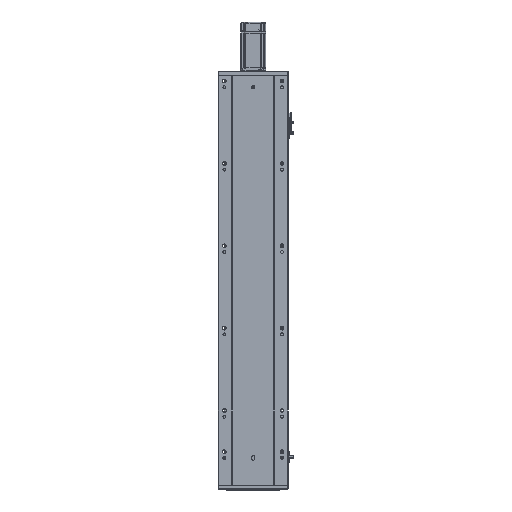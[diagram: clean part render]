
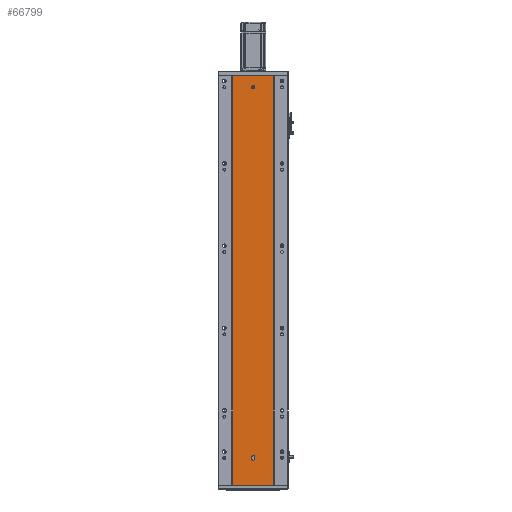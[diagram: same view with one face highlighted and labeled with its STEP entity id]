
A CAD part, front view. The second image highlights one B-rep face of the part: STEP entity #66799.
In plain terms, the highlighted planar face has unit normal (0, -1, 0).
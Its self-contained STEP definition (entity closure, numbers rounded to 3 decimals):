
#11 = ORIENTED_EDGE ( 'NONE', *, *, #30475, .T. ) ;
#1483 = CARTESIAN_POINT ( 'NONE',  ( 136.47, 79.476, 966. ) ) ;
#1876 = CARTESIAN_POINT ( 'NONE',  ( 136.47, 79.476, 64.5 ) ) ;
#2490 = LINE ( 'NONE', #62457, #19823 ) ;
#2731 = CARTESIAN_POINT ( 'NONE',  ( 136.47, 79.476, 970. ) ) ;
#3228 = CARTESIAN_POINT ( 'NONE',  ( 136.47, 79.476, 64.5 ) ) ;
#3347 = CIRCLE ( 'NONE', #58147, 4. ) ;
#3562 = DIRECTION ( 'NONE',  ( 0., -1., 0. ) ) ;
#4379 = ORIENTED_EDGE ( 'NONE', *, *, #8383, .F. ) ;
#5374 = CARTESIAN_POINT ( 'NONE',  ( 132.47, 79.476, 67.5 ) ) ;
#5585 = CARTESIAN_POINT ( 'NONE',  ( 86.97, 79.476, 0. ) ) ;
#5701 = CIRCLE ( 'NONE', #56076, 4. ) ;
#6170 = CARTESIAN_POINT ( 'NONE',  ( 0., 79.476, 994. ) ) ;
#8383 = EDGE_CURVE ( 'NONE', #24876, #37624, #64462, .T. ) ;
#8854 = EDGE_CURVE ( 'NONE', #59438, #39805, #5701, .T. ) ;
#9301 = ORIENTED_EDGE ( 'NONE', *, *, #33497, .F. ) ;
#10120 = CARTESIAN_POINT ( 'NONE',  ( 185.97, 79.476, 662.667 ) ) ;
#10433 = CARTESIAN_POINT ( 'NONE',  ( 132.47, 79.476, 67.5 ) ) ;
#10487 = DIRECTION ( 'NONE',  ( 1., 0., 0. ) ) ;
#10952 = CARTESIAN_POINT ( 'NONE',  ( 0., 79.476, 0. ) ) ;
#11131 = CARTESIAN_POINT ( 'NONE',  ( 86.97, 79.476, 994. ) ) ;
#11355 = CARTESIAN_POINT ( 'NONE',  ( 86.97, 79.476, 331.333 ) ) ;
#11464 = DIRECTION ( 'NONE',  ( 1., 0., 0. ) ) ;
#12877 = PLANE ( 'NONE',  #53555 ) ;
#13119 = DIRECTION ( 'NONE',  ( 0., 0., 1. ) ) ;
#13994 = DIRECTION ( 'NONE',  ( 0., -1., 0. ) ) ;
#14237 = EDGE_LOOP ( 'NONE', ( #53144, #23308 ) ) ;
#14258 = ORIENTED_EDGE ( 'NONE', *, *, #63596, .F. ) ;
#16418 = CARTESIAN_POINT ( 'NONE',  ( 140.47, 79.476, 64.5 ) ) ;
#16570 = CARTESIAN_POINT ( 'NONE',  ( 136.47, 79.476, 966. ) ) ;
#16769 = VERTEX_POINT ( 'NONE', #25247 ) ;
#19823 = VECTOR ( 'NONE', #26238, 1000. ) ;
#20293 = FACE_BOUND ( 'NONE', #14237, .T. ) ;
#21182 = EDGE_CURVE ( 'NONE', #16769, #27840, #62420, .T. ) ;
#21401 = DIRECTION ( 'NONE',  ( 0., 0., -1. ) ) ;
#21667 = VERTEX_POINT ( 'NONE', #52369 ) ;
#23308 = ORIENTED_EDGE ( 'NONE', *, *, #57199, .F. ) ;
#23829 = CIRCLE ( 'NONE', #52140, 4. ) ;
#24815 = DIRECTION ( 'NONE',  ( 0., 0., -1. ) ) ;
#24876 = VERTEX_POINT ( 'NONE', #10433 ) ;
#25247 = CARTESIAN_POINT ( 'NONE',  ( 86.97, 79.476, 994. ) ) ;
#25830 = EDGE_CURVE ( 'NONE', #26820, #24876, #32132, .T. ) ;
#26238 = DIRECTION ( 'NONE',  ( 0., 0., 1. ) ) ;
#26820 = VERTEX_POINT ( 'NONE', #34362 ) ;
#26886 = DIRECTION ( 'NONE',  ( 0., -1., 0. ) ) ;
#26890 = EDGE_CURVE ( 'NONE', #37624, #59438, #23829, .T. ) ;
#27840 = VERTEX_POINT ( 'NONE', #38954 ) ;
#28814 = AXIS2_PLACEMENT_3D ( 'NONE', #1483, #26886, #37691 ) ;
#28823 = DIRECTION ( 'NONE',  ( 0., -1., 0. ) ) ;
#29204 = ORIENTED_EDGE ( 'NONE', *, *, #21182, .T. ) ;
#29355 = FACE_BOUND ( 'NONE', #44417, .T. ) ;
#30475 = EDGE_CURVE ( 'NONE', #27840, #21667, #35787, .T. ) ;
#30940 = ORIENTED_EDGE ( 'NONE', *, *, #26890, .F. ) ;
#31016 = FACE_OUTER_BOUND ( 'NONE', #46923, .T. ) ;
#31051 = ORIENTED_EDGE ( 'NONE', *, *, #8854, .F. ) ;
#31756 = CARTESIAN_POINT ( 'NONE',  ( 185.97, 79.476, 0. ) ) ;
#32132 = CIRCLE ( 'NONE', #38375, 4. ) ;
#33029 = VECTOR ( 'NONE', #63773, 1000. ) ;
#33497 = EDGE_CURVE ( 'NONE', #34100, #21667, #43897, .T. ) ;
#34100 = VERTEX_POINT ( 'NONE', #59366 ) ;
#34362 = CARTESIAN_POINT ( 'NONE',  ( 140.47, 79.476, 67.5 ) ) ;
#34980 = DIRECTION ( 'NONE',  ( 0., 0., -1. ) ) ;
#35787 = LINE ( 'NONE', #10952, #48220 ) ;
#37624 = VERTEX_POINT ( 'NONE', #52075 ) ;
#37691 = DIRECTION ( 'NONE',  ( 0., 0., -1. ) ) ;
#38375 = AXIS2_PLACEMENT_3D ( 'NONE', #40955, #13994, #34980 ) ;
#38954 = CARTESIAN_POINT ( 'NONE',  ( 86.97, 79.476, 0. ) ) ;
#39805 = VERTEX_POINT ( 'NONE', #16418 ) ;
#40955 = CARTESIAN_POINT ( 'NONE',  ( 136.47, 79.476, 67.5 ) ) ;
#41463 = CARTESIAN_POINT ( 'NONE',  ( 185.97, 79.476, 331.333 ) ) ;
#42478 = CARTESIAN_POINT ( 'NONE',  ( 86.97, 79.476, 662.667 ) ) ;
#42917 = LINE ( 'NONE', #6170, #58644 ) ;
#43411 = VERTEX_POINT ( 'NONE', #46079 ) ;
#43897 = B_SPLINE_CURVE_WITH_KNOTS ( 'NONE', 3,
 ( #62741, #10120, #41463, #31756 ),
 .UNSPECIFIED., .F., .F.,
 ( 4, 4 ),
 ( 0., 1. ),
 .UNSPECIFIED. ) ;
#44417 = EDGE_LOOP ( 'NONE', ( #30940, #4379, #62400, #14258, #31051 ) ) ;
#46079 = CARTESIAN_POINT ( 'NONE',  ( 136.47, 79.476, 962. ) ) ;
#46923 = EDGE_LOOP ( 'NONE', ( #11, #9301, #51523, #29204 ) ) ;
#47541 = EDGE_CURVE ( 'NONE', #43411, #65276, #3347, .T. ) ;
#47633 = EDGE_CURVE ( 'NONE', #16769, #34100, #42917, .T. ) ;
#48220 = VECTOR ( 'NONE', #10487, 1000. ) ;
#49805 = CARTESIAN_POINT ( 'NONE',  ( 0., 79.476, 994. ) ) ;
#51523 = ORIENTED_EDGE ( 'NONE', *, *, #47633, .F. ) ;
#52075 = CARTESIAN_POINT ( 'NONE',  ( 132.47, 79.476, 64.5 ) ) ;
#52140 = AXIS2_PLACEMENT_3D ( 'NONE', #1876, #28823, #65566 ) ;
#52369 = CARTESIAN_POINT ( 'NONE',  ( 185.97, 79.476, 0. ) ) ;
#53144 = ORIENTED_EDGE ( 'NONE', *, *, #47541, .F. ) ;
#53555 = AXIS2_PLACEMENT_3D ( 'NONE', #49805, #54655, #13119 ) ;
#54655 = DIRECTION ( 'NONE',  ( 0., 1., 0. ) ) ;
#56076 = AXIS2_PLACEMENT_3D ( 'NONE', #3228, #3562, #24815 ) ;
#57199 = EDGE_CURVE ( 'NONE', #65276, #43411, #58939, .T. ) ;
#58147 = AXIS2_PLACEMENT_3D ( 'NONE', #16570, #59013, #21401 ) ;
#58644 = VECTOR ( 'NONE', #11464, 1000. ) ;
#58939 = CIRCLE ( 'NONE', #28814, 4. ) ;
#59013 = DIRECTION ( 'NONE',  ( 0., -1., 0. ) ) ;
#59366 = CARTESIAN_POINT ( 'NONE',  ( 185.97, 79.476, 994. ) ) ;
#59438 = VERTEX_POINT ( 'NONE', #62489 ) ;
#62400 = ORIENTED_EDGE ( 'NONE', *, *, #25830, .F. ) ;
#62420 = B_SPLINE_CURVE_WITH_KNOTS ( 'NONE', 3,
 ( #11131, #42478, #11355, #5585 ),
 .UNSPECIFIED., .F., .F.,
 ( 4, 4 ),
 ( 0., 1. ),
 .UNSPECIFIED. ) ;
#62457 = CARTESIAN_POINT ( 'NONE',  ( 140.47, 79.476, 67.5 ) ) ;
#62489 = CARTESIAN_POINT ( 'NONE',  ( 136.47, 79.476, 60.5 ) ) ;
#62741 = CARTESIAN_POINT ( 'NONE',  ( 185.97, 79.476, 994. ) ) ;
#63596 = EDGE_CURVE ( 'NONE', #39805, #26820, #2490, .T. ) ;
#63773 = DIRECTION ( 'NONE',  ( 0., 0., -1. ) ) ;
#64462 = LINE ( 'NONE', #5374, #33029 ) ;
#65276 = VERTEX_POINT ( 'NONE', #2731 ) ;
#65566 = DIRECTION ( 'NONE',  ( 0., 0., -1. ) ) ;
#66799 = ADVANCED_FACE ( 'NONE', ( #29355, #20293, #31016 ), #12877, .F. ) ;
